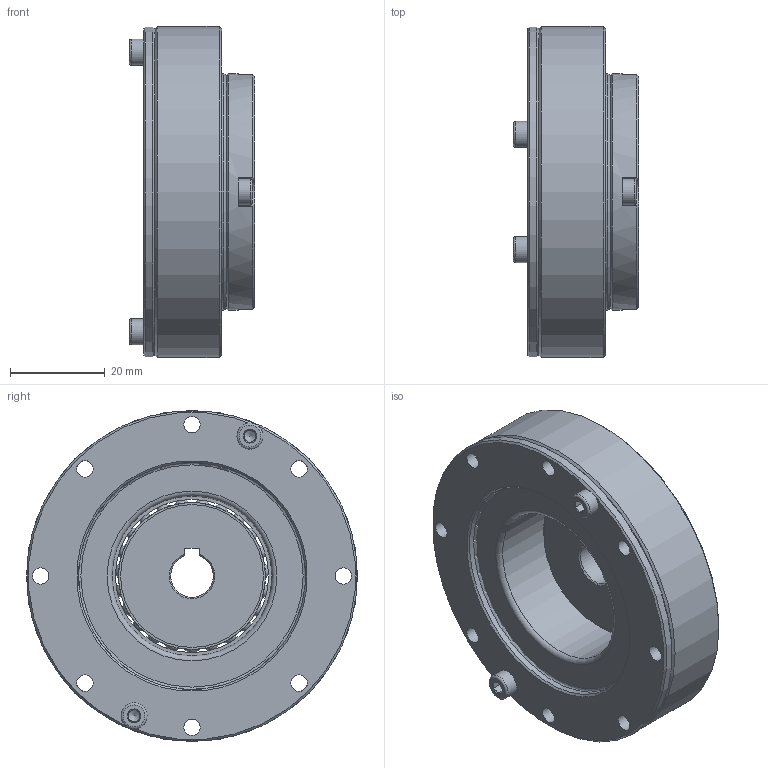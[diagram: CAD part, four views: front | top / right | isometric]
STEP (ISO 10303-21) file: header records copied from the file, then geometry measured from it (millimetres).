
FILE_DESCRIPTION(/* description */ (''),/* implementation_level */ '2;1');
FILE_NAME(/* name */ 'Getriebeset_HTG_Plus_BG35_FK.stp',/* time_stamp */ '2026-03-10T08:36:05+01:00',/* author */ (''),/* organization */ (''),/* preprocessor_version */ 'ST-DEVELOPER v19.4',/* originating_system */ 'SIEMENS PLM Software NX2212.9120',/* authorisation */ '');
FILE_SCHEMA (('AUTOMOTIVE_DESIGN { 1 0 10303 214 3 1 1 1 }'));
Length unit declared in the file: millimetre
Products named in the file (1): Getriebeset_HTG_Plus_BG35_FK
Bounding box: 26.5 x 70 x 70 mm (x, y, z)
Volume: 54097.7 mm3; surface area: 46988.3 mm2
Topology: 42 solids, 42 shells, 587 faces, 1490 edges, 958 vertices
Faces by surface type: cylinder 145, cone 142, plane 140, bspline 117, sphere 23, torus 20
Full cylindrical faces by diameter (mm): 2.5 x14, 3 x6, 3.4 x12, 3.5 x18, 5.5 x6, 13.5 x1, 22 x1, 23.71 x1, 23.94 x1, 25 x3, 26.7 x3, 27.01 x1, 30.2 x1, 32.4 x2, 33.8 x2, 34.327 x1, 35 x1, 35.258 x1, 35.8 x1, 37.44 x1, 38 x2, 45.5 x1, 48 x1, 50 x4, 51 x2, 53 x1, 55.5 x1, 58 x3, 70 x2
Entity records: 28094 total; most frequent: CARTESIAN_POINT 16300, ORIENTED_EDGE 2254, DIRECTION 1980, EDGE_CURVE 1127, AXIS2_PLACEMENT_3D 893, EDGE_LOOP 855, VERTEX_POINT 855, ADVANCED_FACE 587
